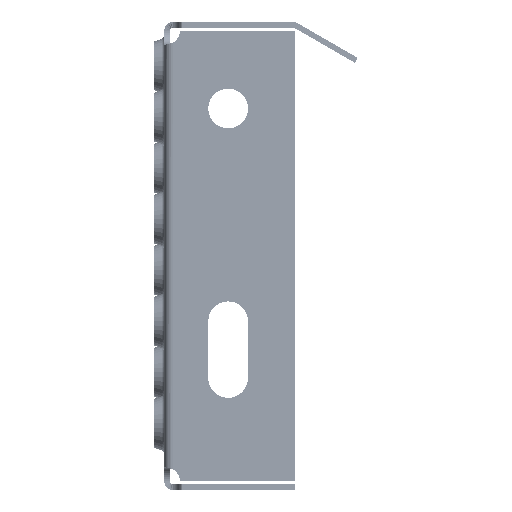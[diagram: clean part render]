
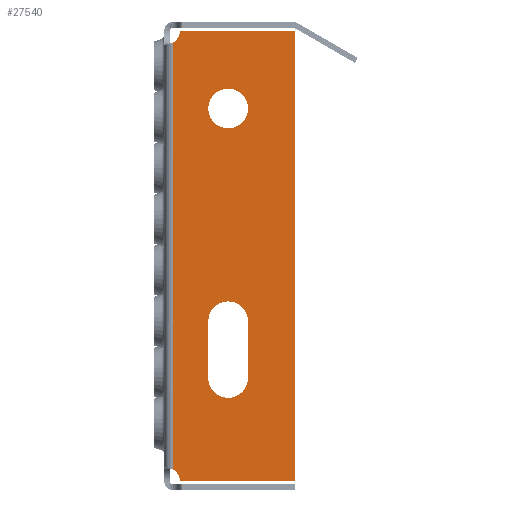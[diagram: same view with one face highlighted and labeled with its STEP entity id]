
A CAD part, left-side view. The second image highlights one B-rep face of the part: STEP entity #27540.
In plain terms, the highlighted planar face has unit normal (-1, 0, 0).
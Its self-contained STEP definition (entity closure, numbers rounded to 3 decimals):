
#341 = CARTESIAN_POINT ( 'NONE',  ( -800., -0.5, 79.5 ) ) ;
#568 = VERTEX_POINT ( 'NONE', #30559 ) ;
#1446 = VECTOR ( 'NONE', #48395, 1000. ) ;
#1894 = EDGE_CURVE ( 'NONE', #15905, #26435, #33191, .T. ) ;
#2803 = EDGE_CURVE ( 'NONE', #40166, #27101, #43369, .T. ) ;
#3397 = DIRECTION ( 'NONE',  ( 0., 0., 1. ) ) ;
#3406 = DIRECTION ( 'NONE',  ( 0., 0., -1. ) ) ;
#3863 = LINE ( 'NONE', #5860, #1446 ) ;
#4065 = PLANE ( 'NONE',  #20874 ) ;
#4170 = VERTEX_POINT ( 'NONE', #34579 ) ;
#4191 = DIRECTION ( 'NONE',  ( 0., 0., -1. ) ) ;
#5182 = CARTESIAN_POINT ( 'NONE',  ( -800., -6.416, -79.5 ) ) ;
#5765 = DIRECTION ( 'NONE',  ( 0., 1., 0. ) ) ;
#5860 = CARTESIAN_POINT ( 'NONE',  ( -800., -29.5, -23. ) ) ;
#5918 = CIRCLE ( 'NONE', #37542, 1. ) ;
#6673 = CIRCLE ( 'NONE', #13459, 7. ) ;
#7183 = CARTESIAN_POINT ( 'NONE',  ( -800., -3., -75.17 ) ) ;
#7932 = CARTESIAN_POINT ( 'NONE',  ( -800., 0.5, -85.416 ) ) ;
#8829 = DIRECTION ( 'NONE',  ( 0., 0., 1. ) ) ;
#9288 = VERTEX_POINT ( 'NONE', #40333 ) ;
#9407 = CARTESIAN_POINT ( 'NONE',  ( -800., -6.416, -78.5 ) ) ;
#9547 = DIRECTION ( 'NONE',  ( -1., 0., 0. ) ) ;
#10185 = CARTESIAN_POINT ( 'NONE',  ( -800., -46., 79.5 ) ) ;
#10670 = EDGE_CURVE ( 'NONE', #44185, #25633, #22178, .T. ) ;
#10680 = FACE_BOUND ( 'NONE', #24269, .T. ) ;
#11161 = VECTOR ( 'NONE', #21448, 1000. ) ;
#11288 = CARTESIAN_POINT ( 'NONE',  ( -800., -22.5, 52. ) ) ;
#11307 = VECTOR ( 'NONE', #16814, 1000. ) ;
#11330 = CARTESIAN_POINT ( 'NONE',  ( -800., -15.5, -23. ) ) ;
#11930 = VECTOR ( 'NONE', #8829, 1000. ) ;
#12017 = ORIENTED_EDGE ( 'NONE', *, *, #2803, .T. ) ;
#12361 = LINE ( 'NONE', #44582, #11161 ) ;
#13020 = CARTESIAN_POINT ( 'NONE',  ( -800., -46., -79.5 ) ) ;
#13267 = DIRECTION ( 'NONE',  ( 0., 0., -1. ) ) ;
#13459 = AXIS2_PLACEMENT_3D ( 'NONE', #16900, #43955, #20791 ) ;
#14257 = EDGE_LOOP ( 'NONE', ( #41741, #45494, #48741, #12017, #43601, #31664, #33655, #42542 ) ) ;
#14593 = VERTEX_POINT ( 'NONE', #22152 ) ;
#15190 = DIRECTION ( 'NONE',  ( 0., 0., -1. ) ) ;
#15622 = AXIS2_PLACEMENT_3D ( 'NONE', #32691, #9547, #36575 ) ;
#15724 = CARTESIAN_POINT ( 'NONE',  ( -800., -29.5, -43. ) ) ;
#15905 = VERTEX_POINT ( 'NONE', #7183 ) ;
#16393 = CARTESIAN_POINT ( 'NONE',  ( -800., -6.416, -79.5 ) ) ;
#16814 = DIRECTION ( 'NONE',  ( 0., -1., 0. ) ) ;
#16900 = CARTESIAN_POINT ( 'NONE',  ( -800., -22.5, -23. ) ) ;
#17549 = EDGE_CURVE ( 'NONE', #568, #47697, #34660, .T. ) ;
#19715 = AXIS2_PLACEMENT_3D ( 'NONE', #11288, #38340, #15190 ) ;
#19745 = FACE_OUTER_BOUND ( 'NONE', #14257, .T. ) ;
#20272 = EDGE_CURVE ( 'NONE', #14593, #21474, #6673, .T. ) ;
#20618 = CARTESIAN_POINT ( 'NONE',  ( -800., -3., -85.416 ) ) ;
#20791 = DIRECTION ( 'NONE',  ( 0., 0., -1. ) ) ;
#20874 = AXIS2_PLACEMENT_3D ( 'NONE', #7932, #42746, #44451 ) ;
#20902 = ORIENTED_EDGE ( 'NONE', *, *, #31714, .F. ) ;
#21448 = DIRECTION ( 'NONE',  ( 0., 0., 1. ) ) ;
#21474 = VERTEX_POINT ( 'NONE', #41563 ) ;
#22152 = CARTESIAN_POINT ( 'NONE',  ( -800., -29.5, -23. ) ) ;
#22178 = LINE ( 'NONE', #25013, #31230 ) ;
#24269 = EDGE_LOOP ( 'NONE', ( #20902, #33833, #32511, #47506 ) ) ;
#25013 = CARTESIAN_POINT ( 'NONE',  ( -800., -46., 79.5 ) ) ;
#25226 = EDGE_LOOP ( 'NONE', ( #45057 ) ) ;
#25633 = VERTEX_POINT ( 'NONE', #46936 ) ;
#26435 = VERTEX_POINT ( 'NONE', #28294 ) ;
#26541 = DIRECTION ( 'NONE',  ( -1., 0., 0. ) ) ;
#26549 = DIRECTION ( 'NONE',  ( 1., 0., 0. ) ) ;
#27069 = EDGE_CURVE ( 'NONE', #15905, #4170, #32486, .T. ) ;
#27101 = VERTEX_POINT ( 'NONE', #13020 ) ;
#27304 = DIRECTION ( 'NONE',  ( 1., 0., 0. ) ) ;
#27343 = AXIS2_PLACEMENT_3D ( 'NONE', #49660, #26549, #3406 ) ;
#27405 = EDGE_CURVE ( 'NONE', #25633, #9288, #46354, .T. ) ;
#27540 = ADVANCED_FACE ( 'NONE', ( #19745, #39096, #10680 ), #4065, .F. ) ;
#28294 = CARTESIAN_POINT ( 'NONE',  ( -800., -5.43, -78.667 ) ) ;
#30372 = AXIS2_PLACEMENT_3D ( 'NONE', #341, #27304, #4191 ) ;
#30559 = CARTESIAN_POINT ( 'NONE',  ( -800., -15.5, -43. ) ) ;
#30695 = EDGE_CURVE ( 'NONE', #26435, #40166, #5918, .T. ) ;
#31139 = CIRCLE ( 'NONE', #19715, 7. ) ;
#31230 = VECTOR ( 'NONE', #5765, 1000. ) ;
#31265 = VECTOR ( 'NONE', #38380, 1000. ) ;
#31497 = VERTEX_POINT ( 'NONE', #37848 ) ;
#31664 = ORIENTED_EDGE ( 'NONE', *, *, #10670, .T. ) ;
#31714 = EDGE_CURVE ( 'NONE', #21474, #568, #41548, .T. ) ;
#32486 = LINE ( 'NONE', #20618, #11930 ) ;
#32511 = ORIENTED_EDGE ( 'NONE', *, *, #45484, .F. ) ;
#32691 = CARTESIAN_POINT ( 'NONE',  ( -800., -22.5, -43. ) ) ;
#33191 = CIRCLE ( 'NONE', #27343, 5. ) ;
#33655 = ORIENTED_EDGE ( 'NONE', *, *, #27405, .T. ) ;
#33833 = ORIENTED_EDGE ( 'NONE', *, *, #20272, .F. ) ;
#34579 = CARTESIAN_POINT ( 'NONE',  ( -800., -3., 75.17 ) ) ;
#34660 = CIRCLE ( 'NONE', #15622, 7. ) ;
#34815 = AXIS2_PLACEMENT_3D ( 'NONE', #49648, #26541, #3397 ) ;
#36430 = DIRECTION ( 'NONE',  ( -1., 0., 0. ) ) ;
#36575 = DIRECTION ( 'NONE',  ( 0., 0., -1. ) ) ;
#36673 = EDGE_CURVE ( 'NONE', #31497, #31497, #31139, .T. ) ;
#37542 = AXIS2_PLACEMENT_3D ( 'NONE', #9407, #36430, #13267 ) ;
#37848 = CARTESIAN_POINT ( 'NONE',  ( -800., -22.5, 45. ) ) ;
#38340 = DIRECTION ( 'NONE',  ( -1., 0., 0. ) ) ;
#38380 = DIRECTION ( 'NONE',  ( 0., 0., -1. ) ) ;
#39096 = FACE_BOUND ( 'NONE', #25226, .T. ) ;
#39379 = CIRCLE ( 'NONE', #30372, 5. ) ;
#40166 = VERTEX_POINT ( 'NONE', #16393 ) ;
#40333 = CARTESIAN_POINT ( 'NONE',  ( -800., -5.43, 78.667 ) ) ;
#41548 = LINE ( 'NONE', #11330, #31265 ) ;
#41563 = CARTESIAN_POINT ( 'NONE',  ( -800., -15.5, -23. ) ) ;
#41741 = ORIENTED_EDGE ( 'NONE', *, *, #27069, .F. ) ;
#42542 = ORIENTED_EDGE ( 'NONE', *, *, #43250, .T. ) ;
#42746 = DIRECTION ( 'NONE',  ( 1., 0., 0. ) ) ;
#43250 = EDGE_CURVE ( 'NONE', #9288, #4170, #39379, .T. ) ;
#43369 = LINE ( 'NONE', #5182, #11307 ) ;
#43601 = ORIENTED_EDGE ( 'NONE', *, *, #44788, .T. ) ;
#43955 = DIRECTION ( 'NONE',  ( -1., 0., 0. ) ) ;
#44185 = VERTEX_POINT ( 'NONE', #10185 ) ;
#44451 = DIRECTION ( 'NONE',  ( 0., 0., -1. ) ) ;
#44582 = CARTESIAN_POINT ( 'NONE',  ( -800., -46., -79.5 ) ) ;
#44788 = EDGE_CURVE ( 'NONE', #27101, #44185, #12361, .T. ) ;
#45057 = ORIENTED_EDGE ( 'NONE', *, *, #36673, .F. ) ;
#45484 = EDGE_CURVE ( 'NONE', #47697, #14593, #3863, .T. ) ;
#45494 = ORIENTED_EDGE ( 'NONE', *, *, #1894, .T. ) ;
#46354 = CIRCLE ( 'NONE', #34815, 1. ) ;
#46936 = CARTESIAN_POINT ( 'NONE',  ( -800., -6.416, 79.5 ) ) ;
#47506 = ORIENTED_EDGE ( 'NONE', *, *, #17549, .F. ) ;
#47697 = VERTEX_POINT ( 'NONE', #15724 ) ;
#48395 = DIRECTION ( 'NONE',  ( 0., 0., 1. ) ) ;
#48741 = ORIENTED_EDGE ( 'NONE', *, *, #30695, .T. ) ;
#49648 = CARTESIAN_POINT ( 'NONE',  ( -800., -6.416, 78.5 ) ) ;
#49660 = CARTESIAN_POINT ( 'NONE',  ( -800., -0.5, -79.5 ) ) ;
